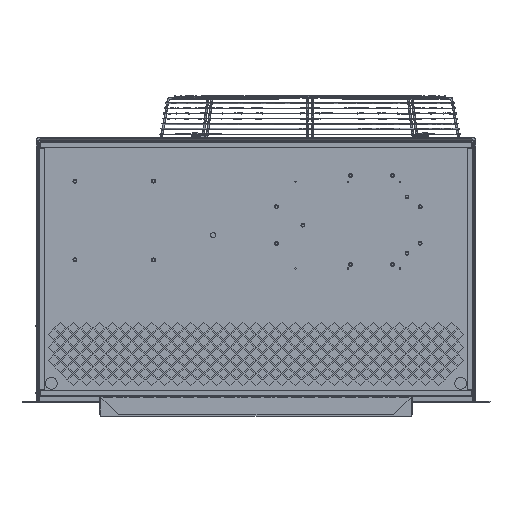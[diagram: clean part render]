
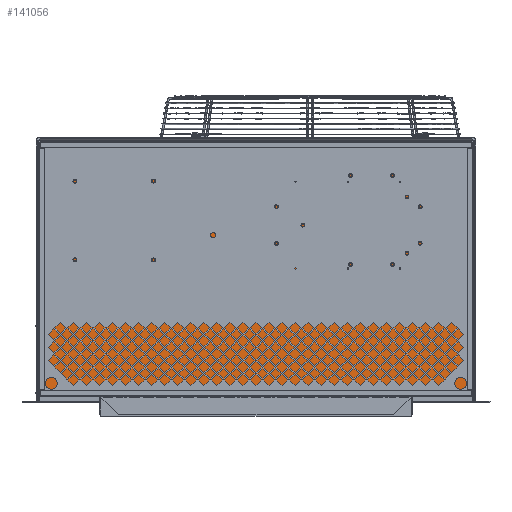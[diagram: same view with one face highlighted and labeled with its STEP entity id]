
A CAD part, front view. The second image highlights one B-rep face of the part: STEP entity #141056.
In plain terms, the highlighted planar face has unit normal (0, -1, 0).
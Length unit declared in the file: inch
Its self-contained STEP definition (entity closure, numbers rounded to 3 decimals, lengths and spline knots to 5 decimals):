
#1627 = EDGE_LOOP ( 'NONE', ( #86662, #53948, #55958, #95735 ) ) ;
#1838 = VECTOR ( 'NONE', #114625, 39.37008 ) ;
#8399 = CARTESIAN_POINT ( 'NONE',  ( 0., 0., 0. ) ) ;
#21389 = PLANE ( 'NONE',  #139054 ) ;
#25121 = CARTESIAN_POINT ( 'NONE',  ( 20.705, 0., -12.1 ) ) ;
#25528 = CARTESIAN_POINT ( 'NONE',  ( -20.705, 0., -12.1 ) ) ;
#28645 = CARTESIAN_POINT ( 'NONE',  ( 20.705, 0., -12.1 ) ) ;
#28968 = EDGE_CURVE ( 'NONE', #171177, #42328, #76293, .T. ) ;
#30379 = LINE ( 'NONE', #32077, #53593 ) ;
#32077 = CARTESIAN_POINT ( 'NONE',  ( -20.705, 0., -12.1 ) ) ;
#36087 = FACE_OUTER_BOUND ( 'NONE', #1627, .T. ) ;
#42328 = VERTEX_POINT ( 'NONE', #28645 ) ;
#48218 = DIRECTION ( 'NONE',  ( 0., 0., 1. ) ) ;
#48647 = LINE ( 'NONE', #112903, #1838 ) ;
#53593 = VECTOR ( 'NONE', #122358, 39.37008 ) ;
#53948 = ORIENTED_EDGE ( 'NONE', *, *, #143089, .F. ) ;
#55958 = ORIENTED_EDGE ( 'NONE', *, *, #28968, .F. ) ;
#70084 = VERTEX_POINT ( 'NONE', #124121 ) ;
#76293 = LINE ( 'NONE', #25121, #101521 ) ;
#86662 = ORIENTED_EDGE ( 'NONE', *, *, #129791, .F. ) ;
#95735 = ORIENTED_EDGE ( 'NONE', *, *, #124450, .F. ) ;
#101521 = VECTOR ( 'NONE', #168263, 39.37008 ) ;
#105291 = DIRECTION ( 'NONE',  ( -1., 0., 0. ) ) ;
#112903 = CARTESIAN_POINT ( 'NONE',  ( -20.705, 0., 12.1 ) ) ;
#114625 = DIRECTION ( 'NONE',  ( 1., 0., 0. ) ) ;
#115065 = DIRECTION ( 'NONE',  ( 0., 1., 0. ) ) ;
#118642 = CARTESIAN_POINT ( 'NONE',  ( -20.705, 0., -12.1 ) ) ;
#119227 = LINE ( 'NONE', #25528, #151019 ) ;
#122358 = DIRECTION ( 'NONE',  ( 0., 0., 1. ) ) ;
#124121 = CARTESIAN_POINT ( 'NONE',  ( -20.705, 0., 12.1 ) ) ;
#124450 = EDGE_CURVE ( 'NONE', #70084, #171177, #48647, .T. ) ;
#129791 = EDGE_CURVE ( 'NONE', #139394, #70084, #30379, .T. ) ;
#131841 = CARTESIAN_POINT ( 'NONE',  ( 20.705, 0., 12.1 ) ) ;
#139054 = AXIS2_PLACEMENT_3D ( 'NONE', #8399, #115065, #48218 ) ;
#139394 = VERTEX_POINT ( 'NONE', #118642 ) ;
#141056 = ADVANCED_FACE ( 'NONE', ( #36087 ), #21389, .F. ) ;
#143089 = EDGE_CURVE ( 'NONE', #42328, #139394, #119227, .T. ) ;
#151019 = VECTOR ( 'NONE', #105291, 39.37008 ) ;
#168263 = DIRECTION ( 'NONE',  ( 0., 0., -1. ) ) ;
#171177 = VERTEX_POINT ( 'NONE', #131841 ) ;
